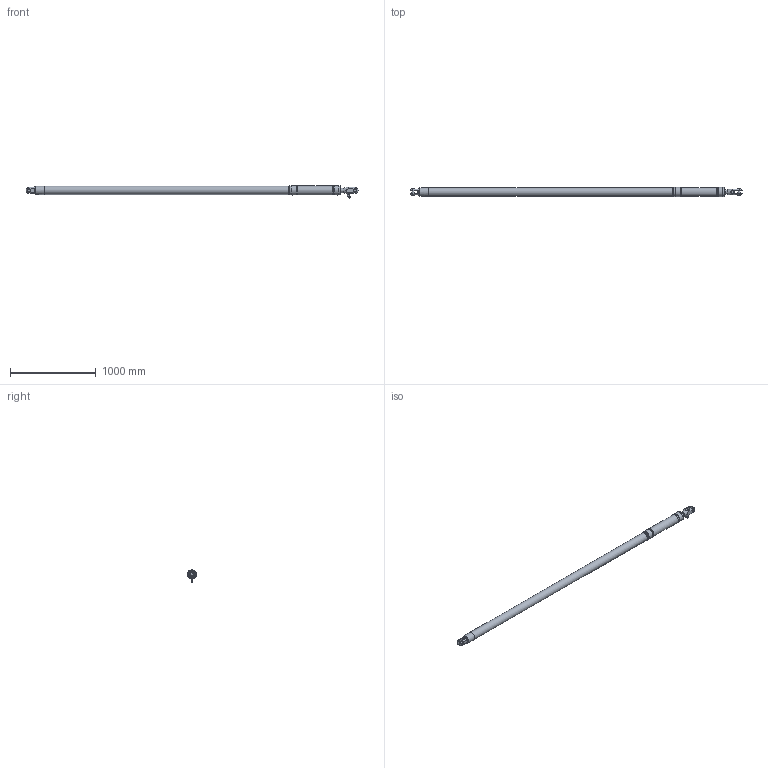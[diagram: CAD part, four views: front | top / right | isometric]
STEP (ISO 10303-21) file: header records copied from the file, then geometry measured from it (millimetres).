
FILE_DESCRIPTION(/* description */ (''),/* implementation_level */ '2;1');
FILE_NAME(/* name */ 'Q:\AA BRAND HYDRAULICS\HYDRAULICS FAMILY DIRECTORY\HYDRAULICS\CYLINDERS\VANGS\ALUMINIUM SINGLE ACTING - STAINLESS ON REQUEST (-0010 To -0150)\VSA-0048-S350-NP-71-L3800\VSA-0048-S350-NP-71-L3800 (Closed).stp',/* time_stamp */ '2018-03-28T14:17:44+01:00',/* author */ ('Lorena'),/* organization */ (''),/* preprocessor_version */ 'ST-DEVELOPER v17',/* originating_system */ 'Autodesk Inventor 2018',/* authorisation */ '');
FILE_SCHEMA (('AUTOMOTIVE_DESIGN { 1 0 10303 214 3 1 1 }'));
Length unit declared in the file: millimetre
Products named in the file (1): VSA-0048-S350-NP-71-L3800 (Closed)
Bounding box: 3869.59 x 107.2 x 144.65 mm (x, y, z)
Volume: 27977329.6 mm3; surface area: 1216969.2 mm2
Topology: 2 solids, 6 shells, 1695 faces, 4523 edges, 2990 vertices
Faces by surface type: plane 963, bspline 578, cylinder 83, cone 63, torus 4, sphere 4
Full cylindrical faces by diameter (mm): 5 x5, 6 x2, 6.5 x2, 7.5 x1, 8 x2, 8.1 x1, 9 x2, 14 x1, 14.35 x1, 14.662 x1, 15 x3, 15.662 x1, 16 x2, 16.662 x2, 18 x2, 21.4 x3, 25.4 x2, 26 x1, 27 x1, 28 x1, 31.75 x2, 35 x1, 37 x1, 51 x1, 89.5 x1, 90 x1, 97 x2, 102.6 x1, 104.2 x1, 107.2 x4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
Entity records: 61690 total; most frequent: CARTESIAN_POINT 21495, ORIENTED_EDGE 9032, DIRECTION 5866, EDGE_CURVE 4516, VERTEX_POINT 2992, LINE 2902, VECTOR 2902, EDGE_LOOP 1870
